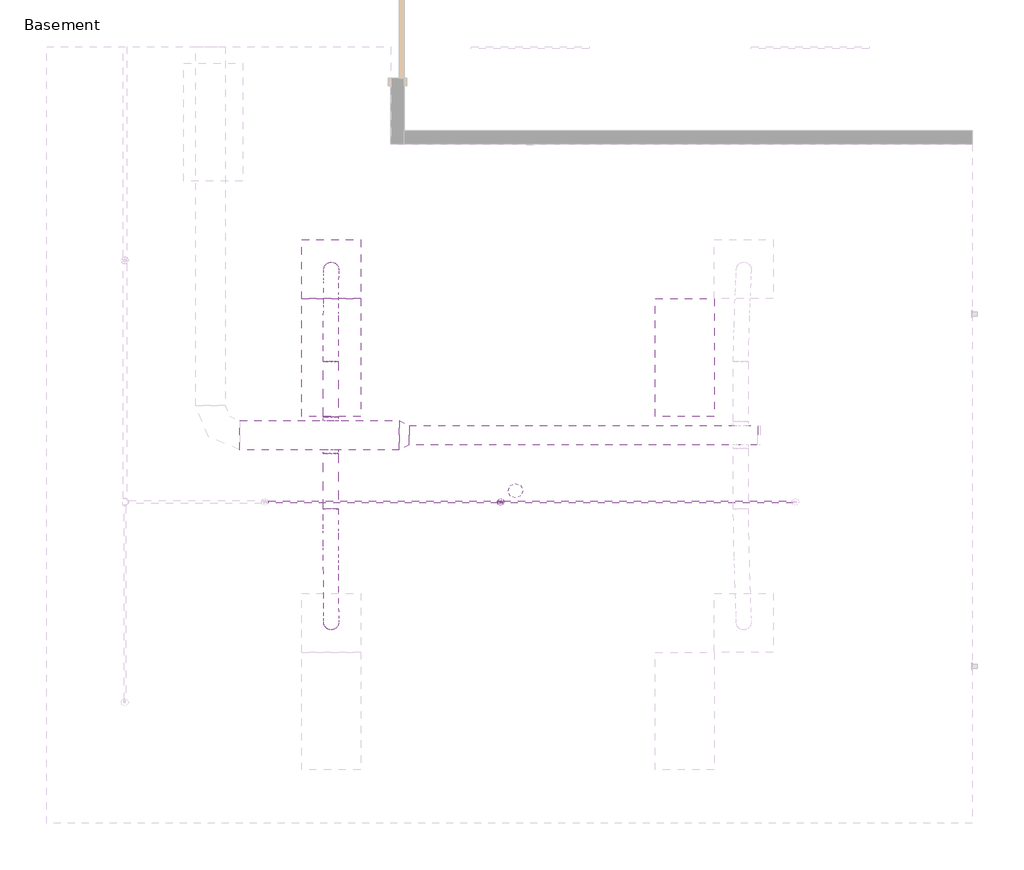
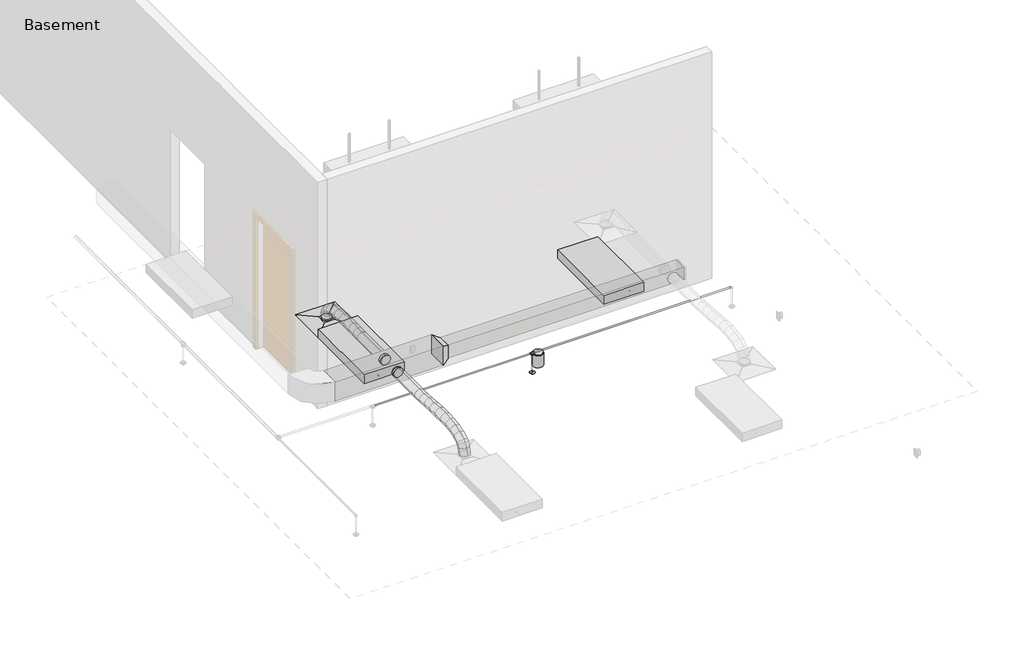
# One storey, part 2 of 6: 6 duct segments, 3 duct fittings, 3 light fixtures, 3 pipe segments, 2 pipe fittings, 1 air terminal, 1 fire suppression terminal.
"""IFC4 building model written with IfcOpenShell, lengths in millimetres."""

from ifc_helpers import new_model, si_unit, point, frame, frame_2d, origin, place, context, project, spatial, polyline, circle_curve, ellipse_curve, trimmed, segment, composite_curve, outline, extrude, transform, mapped, element, save
from ifc_brep_helpers import plane_surface, cylinder_surface, advanced_brep
from components import rectangular_diffuser_round_connection_24x24_6_neck_a21b6d18, rectangular_duct_transition_standard_67d03cbd, round_duct_takeoff_standard_ec3f8b96, round_duct_takeoff_standard_3fff5fc7, fire_suppression_terminal_51680e4f, light_fixture_5ac0ec6e, light_fixture_84ca9390, pipe_tee_standard_ee363fbf, pipe_transition_eccentric_standard_495bb646

model = new_model("IFC4")

# Units and contexts
model_context = context("Model", 3, world=origin())
ifc_project = project(units=[si_unit("LENGTHUNIT", "METRE", prefix="MILLI")], contexts=[model_context])

# Site, building, storey
site = spatial("IfcSite", under=ifc_project)
building = spatial("IfcBuilding", under=site)
storey = spatial("IfcBuildingStorey", under=building, Name="Basement", Elevation=-3657.6)

# Air terminal
placement = place(None, origin())
rectangular_diffuser_round_connection_24x24_6_neck_shape = rectangular_diffuser_round_connection_24x24_6_neck_a21b6d18(model_context)
element("IfcAirTerminal", 1, ObjectType="Rectangular Diffuser - Round Connection : 24x24 - 6 Neck", at=placement, inside=storey, context=model_context, shape_type="MappedRepresentation", body=[
    mapped(rectangular_diffuser_round_connection_24x24_6_neck_shape, transform((333.5560388, -747.290357, -1219.2), x_axis=(1.0, 0.0, 0.0), y_axis=(0.0, 1.0, 0.0), z_axis=(0.0, 0.0, 1.0))),
])

# Duct fittings
rectangular_duct_transition_standard_shape = rectangular_duct_transition_standard_67d03cbd(model_context)
element("IfcDuctFitting", 2, ObjectType="Rectangular Duct Transition : Standard", at=placement, inside=storey, context=model_context, shape_type="MappedRepresentation", body=[
    mapped(rectangular_duct_transition_standard_shape, transform((1037.4405538, -2464.4502377, -914.4), x_axis=(1.0, 0.0, 0.0), y_axis=(0.0, -1.0, 0.0), z_axis=(0.0, 0.0, -1.0))),
])
round_duct_takeoff_standard_shape = round_duct_takeoff_standard_ec3f8b96(model_context)
element("IfcDuctFitting", 3, ObjectType="Round Duct Takeoff : Standard", at=placement, inside=storey, context=model_context, shape_type="MappedRepresentation", body=[
    mapped(round_duct_takeoff_standard_shape, transform((327.8280538, -2312.0502377, -914.4), x_axis=(0.0, 1.0, 0.0), y_axis=(1.0, 0.0, 0.0), z_axis=(0.0, 0.0, -1.0))),
])
round_duct_takeoff_standard_2_shape = round_duct_takeoff_standard_3fff5fc7(model_context)
element("IfcDuctFitting", 4, ObjectType="Round Duct Takeoff : Standard", at=placement, inside=storey, context=model_context, shape_type="MappedRepresentation", body=[
    mapped(round_duct_takeoff_standard_2_shape, transform((327.8280538, -2616.8502377, -914.4), x_axis=(0.0, -1.0, 0.0), y_axis=(-1.0, 0.0, 0.0), z_axis=(0.0, 0.0, -1.0))),
])

# Duct segments
element("IfcDuctSegment", 5, ObjectType="Flex - Round", at=placement, inside=storey, context=model_context, shape_type="AdvancedBrep", body=[
    advanced_brep(
    [(251.6281399, -1702.3357392, -914.4), (327.8300541, -1701.1190488, -990.5883714), (404.0279678, -1702.5647362, -914.4), (327.8260536, -1703.7814267, -838.2116286), (251.7886468, -1595.5167641, -912.5336186), (327.9911933, -1593.8792929, -988.7146379), (404.1882281, -1595.909904, -912.5364865), (327.9856816, -1597.5473752, -836.3554672), (252.2244749, -1476.3722077, -908.8782149), (328.42688, -1474.7733942, -985.0604203), (404.6230536, -1477.0394407, -908.8894921), (328.4206485, -1478.6382543, -832.7072868), (252.8664916, -1350.5360961, -906.3543329), (329.0601221, -1350.6571304, -982.571033), (405.2641055, -1351.3924277, -906.3694029), (329.0704751, -1351.2713933, -830.1527027), (253.645923, -1223.5277097, -907.8778571), (329.818285, -1227.1144312, -984.0529848), (406.0426861, -1224.5226914, -907.891264), (329.8703241, -1220.9359699, -831.7161363), (254.4940293, -1100.8749976, -916.3643399), (330.6267291, -1110.1976383, -992.1425927), (406.8900634, -1101.9753903, -916.3704532), (330.7573635, -1092.6527496, -840.5922004), (255.342073, -988.1104496, -934.729323), (331.406305, -1006.5372712, -1009.0248569), (407.7375032, -989.2911417, -934.7223586), (331.6732712, -970.86432, -860.4268248), (256.1213042, -890.7700667, -965.8878501), (332.0719288, -923.3885587, -1035.6406492), (408.5162839, -892.0070516, -965.8628665), (332.5656593, -859.3885596, -896.1100675), (256.7629504, -814.3932336, -1012.7520741), (332.5455648, -867.0104194, -1070.233832), (409.1577063, -815.6568427, -1012.710754), (333.3750919, -763.039657, -955.2289962), (257.1982607, -764.5168832, -1078.2276368), (332.8136499, -836.294158, -1110.5568404), (409.5930498, -765.7766893, -1078.1913091), (333.9776606, -693.9994146, -1045.8621055), (257.3586319, -746.6618289, -1165.236464), (334.1694313, -672.6484699, -1149.906631), (409.7534457, -747.9188852, -1165.213536), (332.9426463, -821.9322442, -1180.543369)],
    [
        (0, 1, circle_curve(frame((327.8280538, -1702.4502377, -914.4), z_axis=(-0.0015023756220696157, -0.9998462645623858, -0.01746969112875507), x_axis=(-0.9999988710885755, 0.0015026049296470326, 0.0)), 76.2)),
        (1, 2, circle_curve(frame((327.8280538, -1702.4502377, -914.4), z_axis=(-0.0015023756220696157, -0.9998462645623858, -0.01746969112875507), x_axis=(-0.9999988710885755, 0.0015026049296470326, 0.0)), 76.2)),
        (2, 3, circle_curve(frame((327.8280538, -1702.4502377, -914.4), z_axis=(-0.0015023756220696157, -0.9998462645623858, -0.01746969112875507), x_axis=(-0.9999988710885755, 0.0015026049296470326, 0.0)), 76.2)),
        (3, 0, circle_curve(frame((327.8280538, -1702.4502377, -914.4), z_axis=(-0.0015023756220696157, -0.9998462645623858, -0.01746969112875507), x_axis=(-0.9999988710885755, 0.0015026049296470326, 0.0)), 76.2)),
        (0, 4),
        (4, 5, ellipse_curve(frame((327.9884374, -1595.713334, -912.5350526), z_axis=(-0.002579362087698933, -0.9997069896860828, -0.024068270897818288), x_axis=(0.16104076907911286, -0.024169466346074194, 0.9866517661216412)), 76.2017039, 76.2)),
        (5, 1),
        (5, 6, ellipse_curve(frame((327.9884374, -1595.713334, -912.5350526), z_axis=(-0.002579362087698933, -0.9997069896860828, -0.024068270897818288), x_axis=(0.16104076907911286, -0.024169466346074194, 0.9866517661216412)), 76.2017039, 76.2)),
        (6, 2),
        (6, 7, ellipse_curve(frame((327.9884374, -1595.713334, -912.5350526), z_axis=(-0.002579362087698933, -0.9997069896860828, -0.024068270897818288), x_axis=(0.16104076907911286, -0.024169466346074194, 0.9866517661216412)), 76.2017039, 76.2)),
        (7, 3),
        (7, 4, ellipse_curve(frame((327.9884374, -1595.713334, -912.5350526), z_axis=(-0.002579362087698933, -0.9997069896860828, -0.024068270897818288), x_axis=(0.16104076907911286, -0.024169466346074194, 0.9866517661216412)), 76.2017039, 76.2)),
        (4, 8),
        (8, 9, ellipse_curve(frame((328.4237643, -1476.7058242, -908.8838535), z_axis=(-0.0043786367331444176, -0.9996688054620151, -0.025359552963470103), x_axis=(0.13483711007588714, 0.024537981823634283, -0.990563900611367)), 76.2010935, 76.2)),
        (9, 5),
        (9, 10, ellipse_curve(frame((328.4237643, -1476.7058242, -908.8838535), z_axis=(-0.0043786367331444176, -0.9996688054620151, -0.025359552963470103), x_axis=(0.13483711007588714, 0.024537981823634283, -0.990563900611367)), 76.2010935, 76.2)),
        (10, 6),
        (10, 11, ellipse_curve(frame((328.4237643, -1476.7058242, -908.8838535), z_axis=(-0.0043786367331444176, -0.9996688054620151, -0.025359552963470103), x_axis=(0.13483711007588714, 0.024537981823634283, -0.990563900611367)), 76.2010935, 76.2)),
        (11, 7),
        (11, 8, ellipse_curve(frame((328.4237643, -1476.7058242, -908.8838535), z_axis=(-0.0043786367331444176, -0.9996688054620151, -0.025359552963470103), x_axis=(0.13483711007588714, 0.024537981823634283, -0.990563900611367)), 76.2010935, 76.2)),
        (8, 12),
        (12, 13, ellipse_curve(frame((329.0652986, -1350.9642619, -906.3618679), z_axis=(-0.005619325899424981, -0.9999760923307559, -0.0040296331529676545), x_axis=(0.03229105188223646, 0.003846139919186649, -0.9994711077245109)), 76.2097945, 76.2)),
        (13, 9),
        (13, 14, ellipse_curve(frame((329.0652986, -1350.9642619, -906.3618679), z_axis=(-0.005619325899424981, -0.9999760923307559, -0.0040296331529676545), x_axis=(0.03229105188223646, 0.003846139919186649, -0.9994711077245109)), 76.2097945, 76.2)),
        (14, 10),
        (14, 15, ellipse_curve(frame((329.0652986, -1350.9642619, -906.3618679), z_axis=(-0.005619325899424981, -0.9999760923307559, -0.0040296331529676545), x_axis=(0.03229105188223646, 0.003846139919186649, -0.9994711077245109)), 76.2097945, 76.2)),
        (15, 11),
        (15, 12, ellipse_curve(frame((329.0652986, -1350.9642619, -906.3618679), z_axis=(-0.005619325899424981, -0.9999760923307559, -0.0040296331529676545), x_axis=(0.03229105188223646, 0.003846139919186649, -0.9994711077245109)), 76.2097945, 76.2)),
        (12, 16),
        (16, 17, ellipse_curve(frame((329.8443045, -1224.0252006, -907.8845606), z_axis=(-0.006519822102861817, -0.9991572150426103, 0.04052593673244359), x_axis=(0.013344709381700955, -0.04061012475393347, -0.9990859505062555)), 76.2310551, 76.2)),
        (17, 13),
        (17, 18, ellipse_curve(frame((329.8443045, -1224.0252006, -907.8845606), z_axis=(-0.006519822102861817, -0.9991572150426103, 0.04052593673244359), x_axis=(0.013344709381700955, -0.04061012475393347, -0.9990859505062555)), 76.2310551, 76.2)),
        (18, 14),
        (18, 19, ellipse_curve(frame((329.8443045, -1224.0252006, -907.8845606), z_axis=(-0.006519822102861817, -0.9991572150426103, 0.04052593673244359), x_axis=(0.013344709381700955, -0.04061012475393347, -0.9990859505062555)), 76.2310551, 76.2)),
        (19, 15),
        (19, 16, ellipse_curve(frame((329.8443045, -1224.0252006, -907.8845606), z_axis=(-0.006519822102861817, -0.9991572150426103, 0.04052593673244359), x_axis=(0.013344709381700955, -0.04061012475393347, -0.9990859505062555)), 76.2310551, 76.2)),
        (16, 20),
        (20, 21, ellipse_curve(frame((330.6920463, -1101.4251939, -916.3673966), z_axis=(-0.007167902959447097, -0.9933391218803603, 0.11500439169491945), x_axis=(0.005680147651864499, -0.11504593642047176, -0.9933439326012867)), 76.2813275, 76.2)),
        (21, 17),
        (21, 22, ellipse_curve(frame((330.6920463, -1101.4251939, -916.3673966), z_axis=(-0.007167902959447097, -0.9933391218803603, 0.11500439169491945), x_axis=(0.005680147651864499, -0.11504593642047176, -0.9933439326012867)), 76.2813275, 76.2)),
        (22, 18),
        (22, 23, ellipse_curve(frame((330.6920463, -1101.4251939, -916.3673966), z_axis=(-0.007167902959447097, -0.9933391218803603, 0.11500439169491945), x_axis=(0.005680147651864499, -0.11504593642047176, -0.9933439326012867)), 76.2813275, 76.2)),
        (23, 19),
        (23, 20, ellipse_curve(frame((330.6920463, -1101.4251939, -916.3673966), z_axis=(-0.007167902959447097, -0.9933391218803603, 0.11500439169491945), x_axis=(0.005680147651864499, -0.11504593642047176, -0.9933439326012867)), 76.2813275, 76.2)),
        (20, 24),
        (24, 25, ellipse_curve(frame((331.5397881, -988.7007956, -934.7258408), z_axis=(-0.007543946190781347, -0.9723425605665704, 0.2334374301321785), x_axis=(0.0013591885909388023, -0.23345382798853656, -0.9723669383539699)), 76.4100895, 76.2)),
        (25, 21),
        (25, 26, ellipse_curve(frame((331.5397881, -988.7007956, -934.7258408), z_axis=(-0.007543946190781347, -0.9723425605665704, 0.2334374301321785), x_axis=(0.0013591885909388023, -0.23345382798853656, -0.9723669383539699)), 76.4100895, 76.2)),
        (26, 22),
        (26, 27, ellipse_curve(frame((331.5397881, -988.7007956, -934.7258408), z_axis=(-0.007543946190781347, -0.9723425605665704, 0.2334374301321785), x_axis=(0.0013591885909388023, -0.23345382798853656, -0.9723669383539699)), 76.4100895, 76.2)),
        (27, 23),
        (27, 24, ellipse_curve(frame((331.5397881, -988.7007956, -934.7258408), z_axis=(-0.007543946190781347, -0.9723425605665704, 0.2334374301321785), x_axis=(0.0013591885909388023, -0.23345382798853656, -0.9723669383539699)), 76.4100895, 76.2)),
        (24, 28),
        (28, 29, ellipse_curve(frame((332.318794, -891.3885591, -965.8753583), z_axis=(-0.007445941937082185, -0.9089099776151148, 0.4169259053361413), x_axis=(-0.0019316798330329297, -0.4169236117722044, -0.9089394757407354)), 76.7545234, 76.2)),
        (29, 25),
        (29, 30, ellipse_curve(frame((332.318794, -891.3885591, -965.8753583), z_axis=(-0.007445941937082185, -0.9089099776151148, 0.4169259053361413), x_axis=(-0.0019316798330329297, -0.4169236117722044, -0.9089394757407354)), 76.7545234, 76.2)),
        (30, 26),
        (30, 31, ellipse_curve(frame((332.318794, -891.3885591, -965.8753583), z_axis=(-0.007445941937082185, -0.9089099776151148, 0.4169259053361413), x_axis=(-0.0019316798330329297, -0.4169236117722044, -0.9089394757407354)), 76.7545234, 76.2)),
        (31, 27),
        (31, 28, ellipse_curve(frame((332.318794, -891.3885591, -965.8753583), z_axis=(-0.007445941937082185, -0.9089099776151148, 0.4169259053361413), x_axis=(-0.0019316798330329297, -0.4169236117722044, -0.9089394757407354)), 76.7545234, 76.2)),
        (28, 32),
        (32, 33, ellipse_curve(frame((332.9603284, -815.0250382, -1012.7314141), z_axis=(-0.006332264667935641, -0.7417588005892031, 0.6706368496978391), x_axis=(-0.005094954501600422, -0.670617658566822, -0.7417856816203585)), 77.5189007, 76.2)),
        (33, 29),
        (33, 34, ellipse_curve(frame((332.9603284, -815.0250382, -1012.7314141), z_axis=(-0.006332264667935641, -0.7417588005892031, 0.6706368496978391), x_axis=(-0.005094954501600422, -0.670617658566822, -0.7417856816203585)), 77.5189007, 76.2)),
        (34, 30),
        (34, 35, ellipse_curve(frame((332.9603284, -815.0250382, -1012.7314141), z_axis=(-0.006332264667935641, -0.7417588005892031, 0.6706368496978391), x_axis=(-0.005094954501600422, -0.670617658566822, -0.7417856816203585)), 77.5189007, 76.2)),
        (35, 31),
        (35, 32, ellipse_curve(frame((332.9603284, -815.0250382, -1012.7314141), z_axis=(-0.006332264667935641, -0.7417588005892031, 0.6706368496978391), x_axis=(-0.005094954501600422, -0.670617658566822, -0.7417856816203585)), 77.5189007, 76.2)),
        (32, 36),
        (36, 37, ellipse_curve(frame((333.3956552, -765.1467863, -1078.209473), z_axis=(-0.003638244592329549, -0.41385669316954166, 0.910334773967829), x_axis=(-0.007830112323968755, -0.9103011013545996, -0.4138726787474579)), 78.1577857, 76.2)),
        (37, 33),
        (37, 38, ellipse_curve(frame((333.3956552, -765.1467863, -1078.209473), z_axis=(-0.003638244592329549, -0.41385669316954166, 0.910334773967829), x_axis=(-0.007830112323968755, -0.9103011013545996, -0.4138726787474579)), 78.1577857, 76.2)),
        (38, 34),
        (38, 39, ellipse_curve(frame((333.3956552, -765.1467863, -1078.209473), z_axis=(-0.003638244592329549, -0.41385669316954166, 0.910334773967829), x_axis=(-0.007830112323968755, -0.9103011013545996, -0.4138726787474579)), 78.1577857, 76.2)),
        (39, 35),
        (39, 36, ellipse_curve(frame((333.3956552, -765.1467863, -1078.209473), z_axis=(-0.003638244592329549, -0.41385669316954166, 0.910334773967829), x_axis=(-0.007830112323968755, -0.9103011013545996, -0.4138726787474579)), 78.1577857, 76.2)),
        (40, 41, circle_curve(frame((333.5560388, -747.290357, -1165.225), z_axis=(0.0018055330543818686, 0.20102041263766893, -0.9795853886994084), x_axis=(-0.9999659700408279, 0.008248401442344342, -0.00015044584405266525)), 76.2)),
        (41, 42, circle_curve(frame((333.5560388, -747.290357, -1165.225), z_axis=(0.0018055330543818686, 0.20102041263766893, -0.9795853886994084), x_axis=(-0.9999659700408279, 0.008248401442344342, -0.00015044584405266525)), 76.2)),
        (42, 43, circle_curve(frame((333.5560388, -747.290357, -1165.225), z_axis=(0.0018055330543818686, 0.20102041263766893, -0.9795853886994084), x_axis=(-0.9999659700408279, 0.008248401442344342, -0.00015044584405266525)), 76.2)),
        (43, 40, circle_curve(frame((333.5560388, -747.290357, -1165.225), z_axis=(0.0018055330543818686, 0.20102041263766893, -0.9795853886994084), x_axis=(-0.9999659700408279, 0.008248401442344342, -0.00015044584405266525)), 76.2)),
        (36, 40),
        (43, 37),
        (42, 38),
        (41, 39),
    ],
    [
        plane_surface(frame((327.8280538, -1703.7814297, -838.2116287), z_axis=(-0.0015023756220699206, -0.9998462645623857, -0.017469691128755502), x_axis=(0.9999988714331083, -0.0015021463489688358, -2.624606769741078e-05))),
        cylinder_surface(frame((327.8280538, -1702.4502377, -914.4), z_axis=(-0.0015023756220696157, -0.9998462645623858, -0.01746969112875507), x_axis=(-0.9999988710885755, 0.0015026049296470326, 0.0)), 76.2),
        cylinder_surface(frame((327.9884374, -1595.713334, -912.5350526), z_axis=(-0.0036562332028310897, -0.9995230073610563, -0.030665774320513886), x_axis=(-0.9999933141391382, 0.0036563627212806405, 5.1852419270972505e-05)), 76.2),
        cylinder_surface(frame((328.4237643, -1476.7058242, -908.8838535), z_axis=(-0.0051009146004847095, -0.9997859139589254, -0.020052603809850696), x_axis=(-0.9999869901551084, 0.005100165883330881, 8.84787524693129e-05)), 76.2),
        cylinder_surface(frame((329.0652986, -1350.9642619, -906.3618679), z_axis=(-0.00613629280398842, -0.9999092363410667, 0.01199437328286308), x_axis=(-0.9999811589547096, 0.006137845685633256, 9.266032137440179e-05)), 76.2),
        cylinder_surface(frame((329.8443045, -1224.0252006, -907.8845606), z_axis=(-0.0068980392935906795, -0.9975911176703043, 0.06902448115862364), x_axis=(-0.9999760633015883, 0.006918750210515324, 6.098673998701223e-05)), 76.2),
        cylinder_surface(frame((330.6920463, -1101.4251939, -916.3673966), z_axis=(-0.0074224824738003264, -0.9869690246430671, 0.1607390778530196), x_axis=(-0.9999717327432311, 0.007518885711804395, -8.494282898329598e-06)), 76.2),
        cylinder_surface(frame((331.5397881, -988.7007956, -934.7258408), z_axis=(-0.007623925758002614, -0.9523691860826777, 0.30485211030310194), x_axis=(-0.9999682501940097, 0.007967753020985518, -0.00011625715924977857)), 76.2),
        cylinder_surface(frame((332.318794, -891.3885591, -965.8753583), z_axis=(-0.007160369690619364, -0.8523176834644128, 0.5229754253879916), x_axis=(-0.999965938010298, 0.008249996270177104, -0.0002457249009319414)), 76.2),
        cylinder_surface(frame((332.9603284, -815.0250382, -1012.7314141), z_axis=(-0.005288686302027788, -0.6059594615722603, 0.7954779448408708), x_axis=(-0.999965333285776, 0.008320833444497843, -0.00030977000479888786)), 76.2),
        plane_surface(frame((333.5560388, -672.6458288, -1149.9072196), z_axis=(0.0018055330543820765, 0.20102041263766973, -0.9795853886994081), x_axis=(0.9999983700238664, -0.0003629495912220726, 0.0017686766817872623))),
        cylinder_surface(frame((333.3956552, -765.1467863, -1078.209473), z_axis=(-0.0018055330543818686, -0.20102041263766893, 0.9795853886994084), x_axis=(-0.9999659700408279, 0.008248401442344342, -0.00015044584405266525)), 76.2),
    ],
    [
        (0, [[1, 2, 3, 4]]),
        (1, [[-1, 5, 6, 7]]),
        (1, [[-2, -7, 8, 9]]),
        (1, [[-3, -9, 10, 11]]),
        (1, [[-4, -11, 12, -5]]),
        (2, [[-6, 13, 14, 15]]),
        (2, [[-8, -15, 16, 17]]),
        (2, [[-10, -17, 18, 19]]),
        (2, [[-12, -19, 20, -13]]),
        (3, [[-14, 21, 22, 23]]),
        (3, [[-16, -23, 24, 25]]),
        (3, [[-18, -25, 26, 27]]),
        (3, [[-20, -27, 28, -21]]),
        (4, [[-22, 29, 30, 31]]),
        (4, [[-24, -31, 32, 33]]),
        (4, [[-26, -33, 34, 35]]),
        (4, [[-28, -35, 36, -29]]),
        (5, [[-30, 37, 38, 39]]),
        (5, [[-32, -39, 40, 41]]),
        (5, [[-34, -41, 42, 43]]),
        (5, [[-36, -43, 44, -37]]),
        (6, [[-38, 45, 46, 47]]),
        (6, [[-40, -47, 48, 49]]),
        (6, [[-42, -49, 50, 51]]),
        (6, [[-44, -51, 52, -45]]),
        (7, [[-46, 53, 54, 55]]),
        (7, [[-48, -55, 56, 57]]),
        (7, [[-50, -57, 58, 59]]),
        (7, [[-52, -59, 60, -53]]),
        (8, [[-54, 61, 62, 63]]),
        (8, [[-56, -63, 64, 65]]),
        (8, [[-58, -65, 66, 67]]),
        (8, [[-60, -67, 68, -61]]),
        (9, [[-62, 69, 70, 71]]),
        (9, [[-64, -71, 72, 73]]),
        (9, [[-66, -73, 74, 75]]),
        (9, [[-68, -75, 76, -69]]),
        (10, [[77, 78, 79, 80]]),
        (11, [[-70, 81, -80, 82]]),
        (11, [[-72, -82, -79, 83]]),
        (11, [[-74, -83, -78, 84]]),
        (11, [[-76, -84, -77, -81]]),
    ],
),
])
element("IfcDuctSegment", 6, ObjectType="Flex - Round", at=placement, inside=storey, context=model_context, shape_type="AdvancedBrep", body=[
    advanced_brep(
    [(404.0280051, -3226.3640646, -914.4), (327.830398, -3228.5231186, -990.5718003), (251.6281026, -3226.5364109, -914.4), (327.8257097, -3224.3773569, -838.2281997), (404.1613431, -3344.2702233, -911.1913882), (327.9650973, -3347.6329651, -987.3304323), (251.7615828, -3344.5683324, -911.1879658), (327.9578287, -3341.2055906, -835.0489218), (404.526848, -3475.5455711, -903.6797715), (328.334573, -3480.3345168, -979.7372076), (252.1276763, -3476.0551218, -903.6642503), (328.3199513, -3471.2661761, -827.6068141), (405.0731044, -3615.0712317, -895.0293177), (328.8795183, -3619.5252696, -971.1075179), (252.6745139, -3615.7292204, -895.0045935), (328.8681001, -3611.2751825, -818.9263934), (405.7484947, -3757.6413376, -888.4093984), (329.5458292, -3760.1787672, -964.5765919), (253.3504288, -3758.4100607, -888.3795325), (329.5530944, -3755.8726311, -812.212339), (406.5013791, -3898.0559802, -886.9898641), (330.2788015, -3896.8797894, -963.1946008), (254.1037765, -3898.9111162, -886.9591246), (330.326354, -3900.087307, -810.7543879), (407.2801128, -4031.1182374, -893.940551), (331.0215654, -4023.7958823, -969.8242345), (254.882917, -4032.042874, -893.913442), (331.1414643, -4039.3652291, -818.0297586), (408.0330533, -4151.6331018, -912.4311716), (331.7133458, -4134.5215159, -986.8128914), (255.6362084, -4152.6139065, -912.4126805), (331.9559159, -4169.7254924, -838.0309607), (408.7085661, -4254.4075085, -945.6316131), (332.289233, -4222.1385923, -1015.1168798), (256.3120008, -4255.4308435, -945.626861), (332.731334, -4287.6997598, -876.1415944), (409.2550313, -4334.2507276, -996.7136088), (332.6946811, -4281.3780151, -1053.0170042), (256.8586297, -4335.29798, -996.7241585), (333.4189799, -4388.1706925, -940.4207631), (409.62082, -4385.9707041, -1068.8534671), (332.931019, -4314.7945558, -1099.6269349), (257.2244394, -4387.0209359, -1068.8681727), (333.9142404, -4458.1970841, -1038.094705), (409.7542319, -4404.3656277, -1165.2196725), (334.0704624, -4479.7370802, -1150.937124), (257.3578457, -4405.4150863, -1165.2303275), (333.0416152, -4330.0436339, -1179.512876)],
    [
        (0, 1, circle_curve(frame((327.8280538, -3226.4502377, -914.4), z_axis=(-0.0011304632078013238, 0.9996292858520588, -0.02720317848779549), x_axis=(0.9999993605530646, 0.0011308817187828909, 0.0)), 76.2)),
        (1, 2, circle_curve(frame((327.8280538, -3226.4502377, -914.4), z_axis=(-0.0011304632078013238, 0.9996292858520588, -0.02720317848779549), x_axis=(0.9999993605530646, 0.0011308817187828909, 0.0)), 76.2)),
        (2, 3, circle_curve(frame((327.8280538, -3226.4502377, -914.4), z_axis=(-0.0011304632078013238, 0.9996292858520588, -0.02720317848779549), x_axis=(0.9999993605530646, 0.0011308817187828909, 0.0)), 76.2)),
        (3, 0, circle_curve(frame((327.8280538, -3226.4502377, -914.4), z_axis=(-0.0011304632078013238, 0.9996292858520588, -0.02720317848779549), x_axis=(0.9999993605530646, 0.0011308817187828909, 0.0)), 76.2)),
        (0, 4),
        (4, 5, ellipse_curve(frame((327.961463, -3344.4192778, -911.189677), z_axis=(-0.0019553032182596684, 0.9991085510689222, -0.042169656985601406), x_axis=(0.05498269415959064, 0.04221335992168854, 0.9975945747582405)), 76.2085714, 76.2)),
        (5, 1),
        (5, 6, ellipse_curve(frame((327.961463, -3344.4192778, -911.189677), z_axis=(-0.0019553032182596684, 0.9991085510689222, -0.042169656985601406), x_axis=(0.05498269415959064, 0.04221335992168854, 0.9975945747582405)), 76.2085714, 76.2)),
        (6, 2),
        (6, 7, ellipse_curve(frame((327.961463, -3344.4192778, -911.189677), z_axis=(-0.0019553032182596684, 0.9991085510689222, -0.042169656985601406), x_axis=(0.05498269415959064, 0.04221335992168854, 0.9975945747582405)), 76.2085714, 76.2)),
        (7, 3),
        (7, 4, ellipse_curve(frame((327.961463, -3344.4192778, -911.189677), z_axis=(-0.0019553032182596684, 0.9991085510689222, -0.042169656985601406), x_axis=(0.05498269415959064, 0.04221335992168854, 0.9975945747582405)), 76.2085714, 76.2)),
        (4, 8),
        (8, 9, ellipse_curve(frame((328.3272622, -3475.8003465, -903.6720109), z_axis=(-0.003343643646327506, 0.9982225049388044, -0.05950336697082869), x_axis=(0.2304817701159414, 0.05867092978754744, 0.9713062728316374)), 76.2002281, 76.2)),
        (9, 5),
        (9, 10, ellipse_curve(frame((328.3272622, -3475.8003465, -903.6720109), z_axis=(-0.003343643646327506, 0.9982225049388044, -0.05950336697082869), x_axis=(0.2304817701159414, 0.05867092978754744, 0.9713062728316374)), 76.2002281, 76.2)),
        (10, 6),
        (10, 11, ellipse_curve(frame((328.3272622, -3475.8003465, -903.6720109), z_axis=(-0.003343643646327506, 0.9982225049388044, -0.05950336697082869), x_axis=(0.2304817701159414, 0.05867092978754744, 0.9713062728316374)), 76.2002281, 76.2)),
        (11, 7),
        (11, 8, ellipse_curve(frame((328.3272622, -3475.8003465, -903.6720109), z_axis=(-0.003343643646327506, 0.9982225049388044, -0.05950336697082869), x_axis=(0.2304817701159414, 0.05867092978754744, 0.9713062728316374)), 76.2002281, 76.2)),
        (8, 12),
        (12, 13, ellipse_curve(frame((328.8738092, -3615.4002261, -895.0169556), z_axis=(-0.004319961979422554, 0.9985244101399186, -0.05413261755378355), x_axis=(0.05305227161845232, -0.053828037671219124, -0.9971399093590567)), 76.2023009, 76.2)),
        (13, 9),
        (13, 14, ellipse_curve(frame((328.8738092, -3615.4002261, -895.0169556), z_axis=(-0.004319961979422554, 0.9985244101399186, -0.05413261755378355), x_axis=(0.05305227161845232, -0.053828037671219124, -0.9971399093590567)), 76.2023009, 76.2)),
        (14, 10),
        (14, 15, ellipse_curve(frame((328.8738092, -3615.4002261, -895.0169556), z_axis=(-0.004319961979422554, 0.9985244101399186, -0.05413261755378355), x_axis=(0.05305227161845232, -0.053828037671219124, -0.9971399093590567)), 76.2023009, 76.2)),
        (15, 11),
        (15, 12, ellipse_curve(frame((328.8738092, -3615.4002261, -895.0169556), z_axis=(-0.004319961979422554, 0.9985244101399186, -0.05413261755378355), x_axis=(0.05305227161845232, -0.053828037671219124, -0.9971399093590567)), 76.2023009, 76.2)),
        (12, 16),
        (16, 17, ellipse_curve(frame((329.5494618, -3758.0256991, -888.3944654), z_axis=(-0.005047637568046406, 0.9995881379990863, -0.02825023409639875), x_axis=(0.01734250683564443, -0.028158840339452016, -0.9994530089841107)), 76.2125494, 76.2)),
        (17, 13),
        (17, 18, ellipse_curve(frame((329.5494618, -3758.0256991, -888.3944654), z_axis=(-0.005047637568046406, 0.9995881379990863, -0.02825023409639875), x_axis=(0.01734250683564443, -0.028158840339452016, -0.9994530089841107)), 76.2125494, 76.2)),
        (18, 14),
        (18, 19, ellipse_curve(frame((329.5494618, -3758.0256991, -888.3944654), z_axis=(-0.005047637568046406, 0.9995881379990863, -0.02825023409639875), x_axis=(0.01734250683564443, -0.028158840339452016, -0.9994530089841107)), 76.2125494, 76.2)),
        (19, 15),
        (19, 16, ellipse_curve(frame((329.5494618, -3758.0256991, -888.3944654), z_axis=(-0.005047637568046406, 0.9995881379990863, -0.02825023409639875), x_axis=(0.01734250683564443, -0.028158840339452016, -0.9994530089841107)), 76.2125494, 76.2)),
        (16, 20),
        (20, 21, ellipse_curve(frame((330.3025778, -3898.4835482, -886.9744944), z_axis=(-0.005605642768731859, 0.99976296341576, 0.021037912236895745), x_axis=(0.007751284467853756, 0.021081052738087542, -0.9997477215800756)), 76.2369831, 76.2)),
        (21, 17),
        (21, 22, ellipse_curve(frame((330.3025778, -3898.4835482, -886.9744944), z_axis=(-0.005605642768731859, 0.99976296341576, 0.021037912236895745), x_axis=(0.007751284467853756, 0.021081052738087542, -0.9997477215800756)), 76.2369831, 76.2)),
        (22, 18),
        (22, 23, ellipse_curve(frame((330.3025778, -3898.4835482, -886.9744944), z_axis=(-0.005605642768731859, 0.99976296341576, 0.021037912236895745), x_axis=(0.007751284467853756, 0.021081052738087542, -0.9997477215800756)), 76.2369831, 76.2)),
        (23, 19),
        (23, 20, ellipse_curve(frame((330.3025778, -3898.4835482, -886.9744944), z_axis=(-0.005605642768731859, 0.99976296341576, 0.021037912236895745), x_axis=(0.007751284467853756, 0.021081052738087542, -0.9997477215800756)), 76.2369831, 76.2)),
        (20, 24),
        (24, 25, ellipse_curve(frame((331.0815149, -4031.5805557, -893.9269965), z_axis=(-0.006017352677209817, 0.9947624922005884, 0.10203614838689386), x_axis=(0.0033094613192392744, 0.10205724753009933, -0.9947730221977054)), 76.2954501, 76.2)),
        (25, 21),
        (25, 26, ellipse_curve(frame((331.0815149, -4031.5805557, -893.9269965), z_axis=(-0.006017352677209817, 0.9947624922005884, 0.10203614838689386), x_axis=(0.0033094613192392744, 0.10205724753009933, -0.9947730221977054)), 76.2954501, 76.2)),
        (26, 22),
        (26, 27, ellipse_curve(frame((331.0815149, -4031.5805557, -893.9269965), z_axis=(-0.006017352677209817, 0.9947624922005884, 0.10203614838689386), x_axis=(0.0033094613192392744, 0.10205724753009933, -0.9947730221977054)), 76.2954501, 76.2)),
        (27, 23),
        (27, 24, ellipse_curve(frame((331.0815149, -4031.5805557, -893.9269965), z_axis=(-0.006017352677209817, 0.9947624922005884, 0.10203614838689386), x_axis=(0.0033094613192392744, 0.10205724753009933, -0.9947730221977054)), 76.2954501, 76.2)),
        (24, 28),
        (28, 29, ellipse_curve(frame((331.8346308, -4152.1235041, -912.4219261), z_axis=(-0.0062348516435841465, 0.973108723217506, 0.23026189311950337), x_axis=(0.000494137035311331, 0.23026933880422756, -0.9731268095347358)), 76.4451476, 76.2)),
        (29, 25),
        (29, 30, ellipse_curve(frame((331.8346308, -4152.1235041, -912.4219261), z_axis=(-0.0062348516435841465, 0.973108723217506, 0.23026189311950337), x_axis=(0.000494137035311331, 0.23026933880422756, -0.9731268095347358)), 76.4451476, 76.2)),
        (30, 26),
        (30, 31, ellipse_curve(frame((331.8346308, -4152.1235041, -912.4219261), z_axis=(-0.0062348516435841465, 0.973108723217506, 0.23026189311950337), x_axis=(0.000494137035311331, 0.23026933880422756, -0.9731268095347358)), 76.4451476, 76.2)),
        (31, 27),
        (31, 28, ellipse_curve(frame((331.8346308, -4152.1235041, -912.4219261), z_axis=(-0.0062348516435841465, 0.973108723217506, 0.23026189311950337), x_axis=(0.000494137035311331, 0.23026933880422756, -0.9731268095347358)), 76.4451476, 76.2)),
        (28, 32),
        (32, 33, ellipse_curve(frame((332.5102835, -4254.919176, -945.6292371), z_axis=(-0.006059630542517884, 0.9043905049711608, 0.426662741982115), x_axis=(-0.0019110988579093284, 0.4266593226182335, -0.904410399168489)), 76.8319472, 76.2)),
        (33, 29),
        (33, 34, ellipse_curve(frame((332.5102835, -4254.919176, -945.6292371), z_axis=(-0.006059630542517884, 0.9043905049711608, 0.426662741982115), x_axis=(-0.0019110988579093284, 0.4266593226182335, -0.904410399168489)), 76.8319472, 76.2)),
        (34, 30),
        (34, 35, ellipse_curve(frame((332.5102835, -4254.919176, -945.6292371), z_axis=(-0.006059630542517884, 0.9043905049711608, 0.426662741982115), x_axis=(-0.0019110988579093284, 0.4266593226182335, -0.904410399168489)), 76.8319472, 76.2)),
        (35, 31),
        (35, 32, ellipse_curve(frame((332.5102835, -4254.919176, -945.6292371), z_axis=(-0.006059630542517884, 0.9043905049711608, 0.426662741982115), x_axis=(-0.0019110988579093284, 0.4266593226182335, -0.904410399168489)), 76.8319472, 76.2)),
        (32, 36),
        (36, 37, ellipse_curve(frame((333.0568305, -4334.7743538, -996.7188837), z_axis=(-0.005033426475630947, 0.7255329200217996, 0.688169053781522), x_axis=(-0.00435745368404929, 0.6881553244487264, -0.7255503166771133)), 77.5936759, 76.2)),
        (37, 33),
        (37, 38, ellipse_curve(frame((333.0568305, -4334.7743538, -996.7188837), z_axis=(-0.005033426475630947, 0.7255329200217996, 0.688169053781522), x_axis=(-0.00435745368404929, 0.6881553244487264, -0.7255503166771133)), 77.5936759, 76.2)),
        (38, 34),
        (38, 39, ellipse_curve(frame((333.0568305, -4334.7743538, -996.7188837), z_axis=(-0.005033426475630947, 0.7255329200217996, 0.688169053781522), x_axis=(-0.00435745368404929, 0.6881553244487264, -0.7255503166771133)), 77.5936759, 76.2)),
        (39, 35),
        (39, 36, ellipse_curve(frame((333.0568305, -4334.7743538, -996.7188837), z_axis=(-0.005033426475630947, 0.7255329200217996, 0.688169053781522), x_axis=(-0.00435745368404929, 0.6881553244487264, -0.7255503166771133)), 77.5936759, 76.2)),
        (36, 40),
        (40, 41, ellipse_curve(frame((333.4226297, -4386.49582, -1068.8608199), z_axis=(-0.0028059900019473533, 0.3943021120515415, 0.9189765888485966), x_axis=(-0.006420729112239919, 0.9189541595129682, -0.3943120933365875)), 78.0247832, 76.2)),
        (41, 37),
        (41, 42, ellipse_curve(frame((333.4226297, -4386.49582, -1068.8608199), z_axis=(-0.0028059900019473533, 0.3943021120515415, 0.9189765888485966), x_axis=(-0.006420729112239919, 0.9189541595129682, -0.3943120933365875)), 78.0247832, 76.2)),
        (42, 38),
        (42, 43, ellipse_curve(frame((333.4226297, -4386.49582, -1068.8608199), z_axis=(-0.0028059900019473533, 0.3943021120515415, 0.9189765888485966), x_axis=(-0.006420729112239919, 0.9189541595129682, -0.3943120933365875)), 78.0247832, 76.2)),
        (43, 39),
        (43, 40, ellipse_curve(frame((333.4226297, -4386.49582, -1068.8608199), z_axis=(-0.0028059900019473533, 0.3943021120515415, 0.9189765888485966), x_axis=(-0.006420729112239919, 0.9189541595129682, -0.3943120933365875)), 78.0247832, 76.2)),
        (44, 45, circle_curve(frame((333.5560388, -4404.890357, -1165.225), z_axis=(0.001359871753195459, -0.18750001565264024, -0.9822636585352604), x_axis=(0.9999762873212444, 0.006886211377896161, 6.991479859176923e-05)), 76.2)),
        (45, 46, circle_curve(frame((333.5560388, -4404.890357, -1165.225), z_axis=(0.001359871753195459, -0.18750001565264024, -0.9822636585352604), x_axis=(0.9999762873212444, 0.006886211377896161, 6.991479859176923e-05)), 76.2)),
        (46, 47, circle_curve(frame((333.5560388, -4404.890357, -1165.225), z_axis=(0.001359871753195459, -0.18750001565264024, -0.9822636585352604), x_axis=(0.9999762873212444, 0.006886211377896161, 6.991479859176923e-05)), 76.2)),
        (47, 44, circle_curve(frame((333.5560388, -4404.890357, -1165.225), z_axis=(0.001359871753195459, -0.18750001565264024, -0.9822636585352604), x_axis=(0.9999762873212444, 0.006886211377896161, 6.991479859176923e-05)), 76.2)),
        (40, 44),
        (47, 41),
        (46, 42),
        (45, 43),
    ],
    [
        plane_surface(frame((327.8280538, -3228.5231213, -990.5718003), z_axis=(-0.0011304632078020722, 0.9996292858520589, -0.027203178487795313), x_axis=(0.9999993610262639, 0.0011300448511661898, -3.0752212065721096e-05))),
        cylinder_surface(frame((327.8280538, -3226.4502377, -914.4), z_axis=(-0.0011304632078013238, 0.9996292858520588, -0.02720317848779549), x_axis=(0.9999993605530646, 0.0011308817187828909, 0.0)), 76.2),
        cylinder_surface(frame((327.961463, -3344.4192778, -911.189677), z_axis=(-0.0027797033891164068, 0.9983630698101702, -0.0571266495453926), x_axis=(0.9999961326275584, 0.002780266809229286, -6.961606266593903e-05)), 76.2),
        cylinder_surface(frame((328.3272622, -3475.8003465, -903.6720109), z_axis=(-0.003907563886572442, 0.9980759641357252, -0.061879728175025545), x_axis=(0.9999923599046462, 0.003906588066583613, -0.00013675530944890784)), 76.2),
        cylinder_surface(frame((328.8738092, -3615.4002261, -895.0169556), z_axis=(-0.004732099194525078, 0.9989125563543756, -0.046382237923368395), x_axis=(0.9999888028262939, 0.004728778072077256, -0.00018132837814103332)), 76.2),
        cylinder_surface(frame((329.5494618, -3758.0256991, -888.3944654), z_axis=(-0.005361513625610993, 0.9999345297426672, -0.010108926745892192), x_axis=(0.9999856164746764, 0.005359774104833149, -0.00019916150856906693)), 76.2),
        cylinder_surface(frame((330.3025778, -3898.4835482, -886.9744944), z_axis=(-0.005844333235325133, 0.9986214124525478, 0.05216433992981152), x_axis=(0.9999827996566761, 0.005862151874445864, -0.00018859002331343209)), 76.2),
        cylinder_surface(frame((331.0815149, -4031.5805557, -893.9269965), z_axis=(-0.006175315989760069, 0.9884145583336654, 0.15165265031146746), x_axis=(0.9999803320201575, 0.006270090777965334, -0.0001467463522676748)), 76.2),
        cylinder_surface(frame((331.8346308, -4152.1235041, -912.4219261), z_axis=(-0.006254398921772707, 0.9515616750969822, 0.30739430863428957), x_axis=(0.9999782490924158, 0.006595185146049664, -6.982088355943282e-05)), 76.2),
        cylinder_surface(frame((332.5102835, -4254.919176, -945.6292371), z_axis=(-0.005765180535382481, 0.8423420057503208, 0.5389125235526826), x_axis=(0.9999767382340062, 0.0068206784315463, 3.65596931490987e-05)), 76.2),
        cylinder_surface(frame((333.0568305, -4334.7743538, -996.7188837), z_axis=(-0.004120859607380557, 0.5826609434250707, 0.812704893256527), x_axis=(0.9999761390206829, 0.006907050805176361, 0.00011848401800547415)), 76.2),
        plane_surface(frame((333.5560388, -4330.0417971, -1179.5125144), z_axis=(0.0013598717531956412, -0.1875000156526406, -0.9822636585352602), x_axis=(0.9999990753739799, 0.0002549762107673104, 0.0013357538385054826))),
        cylinder_surface(frame((333.4226297, -4386.49582, -1068.8608199), z_axis=(-0.001359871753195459, 0.18750001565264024, 0.9822636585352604), x_axis=(0.9999762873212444, 0.006886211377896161, 6.991479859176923e-05)), 76.2),
    ],
    [
        (0, [[1, 2, 3, 4]]),
        (1, [[-1, 5, 6, 7]]),
        (1, [[-2, -7, 8, 9]]),
        (1, [[-3, -9, 10, 11]]),
        (1, [[-4, -11, 12, -5]]),
        (2, [[-6, 13, 14, 15]]),
        (2, [[-8, -15, 16, 17]]),
        (2, [[-10, -17, 18, 19]]),
        (2, [[-12, -19, 20, -13]]),
        (3, [[-14, 21, 22, 23]]),
        (3, [[-16, -23, 24, 25]]),
        (3, [[-18, -25, 26, 27]]),
        (3, [[-20, -27, 28, -21]]),
        (4, [[-22, 29, 30, 31]]),
        (4, [[-24, -31, 32, 33]]),
        (4, [[-26, -33, 34, 35]]),
        (4, [[-28, -35, 36, -29]]),
        (5, [[-30, 37, 38, 39]]),
        (5, [[-32, -39, 40, 41]]),
        (5, [[-34, -41, 42, 43]]),
        (5, [[-36, -43, 44, -37]]),
        (6, [[-38, 45, 46, 47]]),
        (6, [[-40, -47, 48, 49]]),
        (6, [[-42, -49, 50, 51]]),
        (6, [[-44, -51, 52, -45]]),
        (7, [[-46, 53, 54, 55]]),
        (7, [[-48, -55, 56, 57]]),
        (7, [[-50, -57, 58, 59]]),
        (7, [[-52, -59, 60, -53]]),
        (8, [[-54, 61, 62, 63]]),
        (8, [[-56, -63, 64, 65]]),
        (8, [[-58, -65, 66, 67]]),
        (8, [[-60, -67, 68, -61]]),
        (9, [[-62, 69, 70, 71]]),
        (9, [[-64, -71, 72, 73]]),
        (9, [[-66, -73, 74, 75]]),
        (9, [[-68, -75, 76, -69]]),
        (10, [[-70, 77, 78, 79]]),
        (10, [[-72, -79, 80, 81]]),
        (10, [[-74, -81, 82, 83]]),
        (10, [[-76, -83, 84, -77]]),
        (11, [[85, 86, 87, 88]]),
        (12, [[-78, 89, -88, 90]]),
        (12, [[-80, -90, -87, 91]]),
        (12, [[-82, -91, -86, 92]]),
        (12, [[-84, -92, -85, -89]]),
    ],
),
])
element("IfcDuctSegment", 7, ObjectType="Radius Elbows / Taps", at=placement, inside=storey, context=model_context, shape_type="SweptSolid", body=[
    extrude(outline(polyline([(1139.0405538, -2566.0502377), (1139.0405538, -2362.8502377), (4745.8405538, -2362.8502377), (4745.8405538, -2566.0502377), (1139.0405538, -2566.0502377)])), frame((0.0, 0.0, -1016.0), z_axis=(0.0, 0.0, 1.0), x_axis=(1.0, 0.0, 0.0)), (0.0, 0.0, 1.0), 203.2),
])
element("IfcDuctSegment", 8, ObjectType="Radius Elbows / Taps", at=placement, inside=storey, context=model_context, shape_type="SweptSolid", body=[
    extrude(outline(polyline([(-610.3844462, -2616.8502377), (-610.3844462, -2312.0502377), (1037.4405538, -2312.0502377), (1037.4405538, -2616.8502377), (-610.3844462, -2616.8502377)])), frame((0.0, 0.0, -1066.8), z_axis=(0.0, 0.0, 1.0), x_axis=(1.0, 0.0, 0.0)), (0.0, 0.0, 1.0), 304.8),
])
element("IfcDuctSegment", 9, ObjectType="Taps", at=placement, inside=storey, context=model_context, shape_type="SweptSolid", body=[
    extrude(outline(composite_curve([segment(trimmed(circle_curve(frame_2d((-914.4, 327.8280538)), 76.2), [point((-914.4, 404.0280538))], [point((-838.2, 327.8280538))], False, "CARTESIAN"), True, "CONTINUOUS"), segment(trimmed(circle_curve(frame_2d((-914.4, 327.8280538)), 76.2), [point((-838.2, 327.8280538))], [point((-914.4, 251.6280538))], False, "CARTESIAN"), True, "CONTINUOUS"), segment(trimmed(circle_curve(frame_2d((-914.4, 327.8280538)), 76.2), [point((-914.4, 251.6280538))], [point((-990.6, 327.8280538))], False, "CARTESIAN"), True, "CONTINUOUS"), segment(trimmed(circle_curve(frame_2d((-914.4, 327.8280538)), 76.2), [point((-990.6, 327.8280538))], [point((-914.4, 404.0280538))], False, "CARTESIAN"), True, "CONTINUOUS")], self_intersect=False)), frame((0.0, -2273.9502377, 0.0), z_axis=(0.0, 1.0, 0.0), x_axis=(0.0, 0.0, 1.0)), (0.0, 0.0, 1.0), 571.5),
])
element("IfcDuctSegment", 10, ObjectType="Taps", at=placement, inside=storey, context=model_context, shape_type="SweptSolid", body=[
    extrude(outline(composite_curve([segment(trimmed(circle_curve(frame_2d((-914.4, 327.8280538)), 76.2), [point((-914.4, 251.6280538))], [point((-990.6, 327.8280538))], False, "CARTESIAN"), True, "CONTINUOUS"), segment(trimmed(circle_curve(frame_2d((-914.4, 327.8280538)), 76.2), [point((-990.6, 327.8280538))], [point((-914.4, 404.0280538))], False, "CARTESIAN"), True, "CONTINUOUS"), segment(trimmed(circle_curve(frame_2d((-914.4, 327.8280538)), 76.2), [point((-914.4, 404.0280538))], [point((-838.2, 327.8280538))], False, "CARTESIAN"), True, "CONTINUOUS"), segment(trimmed(circle_curve(frame_2d((-914.4, 327.8280538)), 76.2), [point((-838.2, 327.8280538))], [point((-914.4, 251.6280538))], False, "CARTESIAN"), True, "CONTINUOUS")], self_intersect=False)), frame((0.0, -3226.4502377, 0.0), z_axis=(0.0, 1.0, 0.0), x_axis=(0.0, 0.0, 1.0)), (0.0, 0.0, 1.0), 571.5),
])

# Fire suppression terminal
fire_suppression_terminal_shape = fire_suppression_terminal_51680e4f(model_context)
element("IfcFireSuppressionTerminal", 11, ObjectType="Sprinkler - Pendent - Semi-Recessed - Hosted : 1/2\" Pendent", at=placement, inside=storey, context=model_context, shape_type="MappedRepresentation", body=[
    mapped(fire_suppression_terminal_shape, transform((2086.1560388, -3153.940357, -1219.2), x_axis=(1.0, 0.0, 0.0), y_axis=(0.0, -1.0, 0.0), z_axis=(0.0, 0.0, -1.0))),
])

# Light fixtures
light_fixture_shape = light_fixture_5ac0ec6e(model_context)
element("IfcLightFixture", 12, ObjectType="Downlight - Recessed Can : 6\" Incandescent - 120V", at=placement, inside=storey, context=model_context, shape_type="MappedRepresentation", body=[
    mapped(light_fixture_shape, transform((2238.5560388, -3039.640357, -3657.6), x_axis=(1.0, 0.0, 0.0), y_axis=(0.0, 1.0, 0.0), z_axis=(0.0, 0.0, 1.0))),
])
light_fixture_2_shape = light_fixture_84ca9390(model_context)
element("IfcLightFixture", 13, ObjectType="Recessed Direct-Indirect Light - Symmetrical : 48\"(3 Lamp) - 277V", at=placement, inside=storey, context=model_context, shape_type="MappedRepresentation", body=[
    mapped(light_fixture_2_shape, transform((333.5560388, -1661.690357, -1219.2), x_axis=(-1.0, 0.0, 0.0), y_axis=(0.0, 1.0, 0.0), z_axis=(0.0, 0.0, -1.0))),
])
element("IfcLightFixture", 14, ObjectType="Recessed Direct-Indirect Light - Symmetrical : 48\"(3 Lamp) - 277V", at=placement, inside=storey, context=model_context, shape_type="MappedRepresentation", body=[
    mapped(light_fixture_2_shape, transform((3991.1560388, -1661.690357, -1219.2), x_axis=(-1.0, 0.0, 0.0), y_axis=(0.0, 1.0, 0.0), z_axis=(0.0, 0.0, -1.0))),
])

# Pipe fittings
pipe_tee_standard_shape = pipe_tee_standard_ee363fbf(model_context)
element("IfcPipeFitting", 15, ObjectType="Pipe Tee : Standard", at=placement, inside=storey, context=model_context, shape_type="MappedRepresentation", body=[
    mapped(pipe_tee_standard_shape, transform((2086.1560388, -3153.940357, -914.4), x_axis=(1.0, 0.0, 0.0), y_axis=(0.0, 0.0, 1.0), z_axis=(0.0, -1.0, 0.0))),
])
pipe_transition_eccentric_standard_shape = pipe_transition_eccentric_standard_495bb646(model_context)
element("IfcPipeFitting", 16, ObjectType="Pipe Transition Eccentric : Standard", at=placement, inside=storey, context=model_context, shape_type="MappedRepresentation", body=[
    mapped(pipe_transition_eccentric_standard_shape, transform((2086.1560388, -3153.940357, -941.3875), x_axis=(0.0, 0.0, -1.0), y_axis=(0.0, -1.0, 0.0), z_axis=(-1.0, 0.0, 0.0))),
])

# Pipe segments
element("IfcPipeSegment", 17, ObjectType="Standard", at=placement, inside=storey, context=model_context, shape_type="SweptSolid", body=[
    extrude(outline(composite_curve([segment(trimmed(circle_curve(frame_2d((2086.1560388, -3153.940357)), 7.9375), [point((2086.1560388, -3161.877857))], [point((2078.2185388, -3153.940357))], False, "CARTESIAN"), True, "CONTINUOUS"), segment(trimmed(circle_curve(frame_2d((2086.1560388, -3153.940357)), 7.9375), [point((2078.2185388, -3153.940357))], [point((2086.1560388, -3146.002857))], False, "CARTESIAN"), True, "CONTINUOUS"), segment(trimmed(circle_curve(frame_2d((2086.1560388, -3153.940357)), 7.9375), [point((2086.1560388, -3146.002857))], [point((2094.0935388, -3153.940357))], False, "CARTESIAN"), True, "CONTINUOUS"), segment(trimmed(circle_curve(frame_2d((2086.1560388, -3153.940357)), 7.9375), [point((2094.0935388, -3153.940357))], [point((2086.1560388, -3161.877857))], False, "CARTESIAN"), True, "CONTINUOUS")], self_intersect=False)), frame((0.0, 0.0, -1195.3875), z_axis=(0.0, 0.0, 1.0), x_axis=(1.0, 0.0, 0.0)), (0.0, 0.0, 1.0), 248.44375),
])
element("IfcPipeSegment", 18, ObjectType="Standard", at=placement, inside=storey, context=model_context, shape_type="SweptSolid", body=[
    extrude(outline(composite_curve([segment(trimmed(circle_curve(frame_2d((-3153.940357, -914.4)), 11.1125), [point((-3165.052857, -914.4))], [point((-3153.940357, -903.2875))], False, "CARTESIAN"), True, "CONTINUOUS"), segment(trimmed(circle_curve(frame_2d((-3153.940357, -914.4)), 11.1125), [point((-3153.940357, -903.2875))], [point((-3142.827857, -914.4))], False, "CARTESIAN"), True, "CONTINUOUS"), segment(trimmed(circle_curve(frame_2d((-3153.940357, -914.4)), 11.1125), [point((-3142.827857, -914.4))], [point((-3153.940357, -925.5125))], False, "CARTESIAN"), True, "CONTINUOUS"), segment(trimmed(circle_curve(frame_2d((-3153.940357, -914.4)), 11.1125), [point((-3153.940357, -925.5125))], [point((-3165.052857, -914.4))], False, "CARTESIAN"), True, "CONTINUOUS")], self_intersect=False)), frame((2113.1435388, 0.0, 0.0), z_axis=(1.0, 0.0, 0.0), x_axis=(0.0, 1.0, 0.0)), (0.0, 0.0, 1.0), 3000.771875),
])
element("IfcPipeSegment", 19, ObjectType="Standard", at=placement, inside=storey, context=model_context, shape_type="SweptSolid", body=[
    extrude(outline(composite_curve([segment(trimmed(circle_curve(frame_2d((-3153.940357, -914.4)), 11.1125), [point((-3142.827857, -914.4))], [point((-3153.940357, -925.5125))], False, "CARTESIAN"), True, "CONTINUOUS"), segment(trimmed(circle_curve(frame_2d((-3153.940357, -914.4)), 11.1125), [point((-3153.940357, -925.5125))], [point((-3165.052857, -914.4))], False, "CARTESIAN"), True, "CONTINUOUS"), segment(trimmed(circle_curve(frame_2d((-3153.940357, -914.4)), 11.1125), [point((-3165.052857, -914.4))], [point((-3153.940357, -903.2875))], False, "CARTESIAN"), True, "CONTINUOUS"), segment(trimmed(circle_curve(frame_2d((-3153.940357, -914.4)), 11.1125), [point((-3153.940357, -903.2875))], [point((-3142.827857, -914.4))], False, "CARTESIAN"), True, "CONTINUOUS")], self_intersect=False)), frame((-314.9377112, 0.0, 0.0), z_axis=(1.0, 0.0, 0.0), x_axis=(0.0, 1.0, 0.0)), (0.0, 0.0, 1.0), 2374.10625),
])

save(model, "model.ifc")
